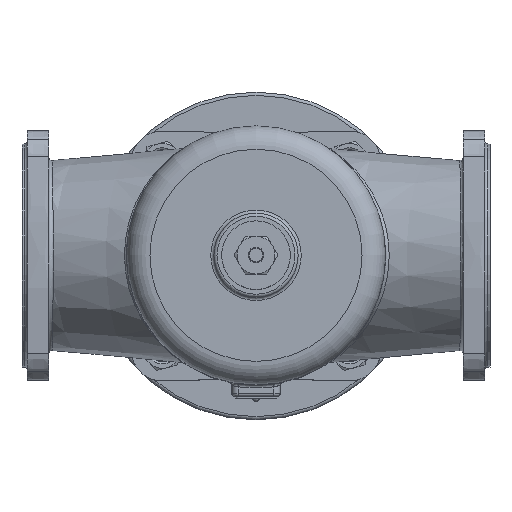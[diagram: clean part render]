
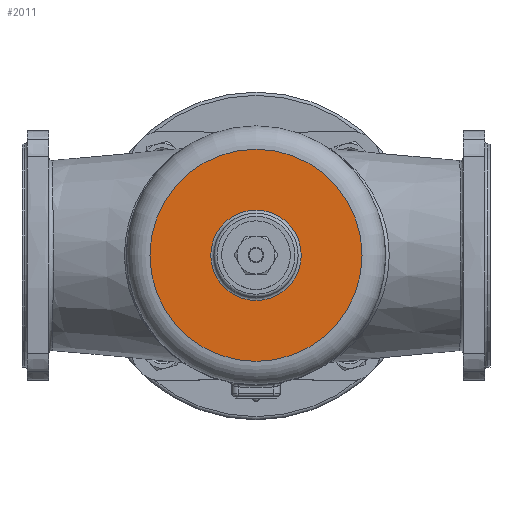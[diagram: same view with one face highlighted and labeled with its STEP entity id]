
A CAD part, top view. The second image highlights one B-rep face of the part: STEP entity #2011.
In plain terms, the highlighted planar face has unit normal (0, 0, 1).
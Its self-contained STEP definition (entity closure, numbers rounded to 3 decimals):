
#1654=PLANE('',#6159);
#1796=FACE_BOUND('',#2667,.T.);
#1797=FACE_BOUND('',#2668,.T.);
#2011=ADVANCED_FACE('',(#1796,#1797),#1654,.T.);
#2667=EDGE_LOOP('',(#3455));
#2668=EDGE_LOOP('',(#3456));
#3125=CIRCLE('',#6157,29.);
#3126=CIRCLE('',#6158,68.);
#3455=ORIENTED_EDGE('',*,*,#5194,.T.);
#3456=ORIENTED_EDGE('',*,*,#5195,.T.);
#4736=VERTEX_POINT('',#9853);
#4737=VERTEX_POINT('',#9855);
#5194=EDGE_CURVE('',#4736,#4736,#3125,.T.);
#5195=EDGE_CURVE('',#4737,#4737,#3126,.T.);
#6157=AXIS2_PLACEMENT_3D('',#9852,#6803,#6804);
#6158=AXIS2_PLACEMENT_3D('',#9854,#6805,#6806);
#6159=AXIS2_PLACEMENT_3D('',#9856,#6807,#6808);
#6803=DIRECTION('',(0.,0.,-1.));
#6804=DIRECTION('',(1.,0.,0.));
#6805=DIRECTION('',(0.,0.,1.));
#6806=DIRECTION('',(1.,0.,0.));
#6807=DIRECTION('',(0.,0.,1.));
#6808=DIRECTION('',(-1.,0.,0.));
#9852=CARTESIAN_POINT('',(0.,0.,
100.5));
#9853=CARTESIAN_POINT('',(29.,0.,100.5));
#9854=CARTESIAN_POINT('',(0.,0.,
100.5));
#9855=CARTESIAN_POINT('',(68.,0.,100.5));
#9856=CARTESIAN_POINT('',(0.,0.,
100.5));
